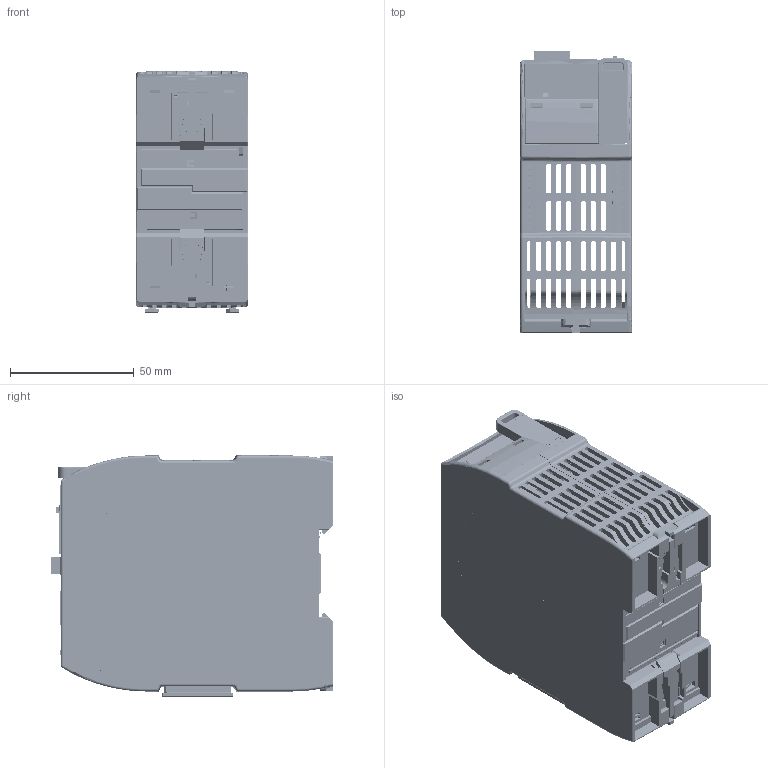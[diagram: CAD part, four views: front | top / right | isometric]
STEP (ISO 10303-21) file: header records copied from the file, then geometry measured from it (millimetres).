
FILE_DESCRIPTION((''),'2;1');
FILE_NAME('2037940','2025-07-10T08:18:05',('s.mayer'),(''),'CREO PARAMETRIC BY PTC INC, 2019292','CREO PARAMETRIC BY PTC INC, 2019292','');
FILE_SCHEMA(('AUTOMOTIVE_DESIGN { 1 0 10303 214 1 1 1 1 }'));
Products named in the file (1): 2037940
Bounding box: 45 x 114.15 x 98.05 mm (x, y, z)
Volume: 108387.7 mm3; surface area: 144615.3 mm2
Topology: 3 solids, 60 shells, 12489 faces, 35147 edges, 22661 vertices
Faces by surface type: plane 8720, cylinder 2709, extrusion 291, cone 225, sphere 204, torus 200, bspline 140
Entity records: 593784 total; most frequent: CARTESIAN_POINT 91231, ORIENTED_EDGE 69786, DIRECTION 59545, PRESENTATION_STYLE_ASSIGNMENT 46580, STYLED_ITEM 35242, CURVE_STYLE 35219, EDGE_CURVE 34933, VECTOR 26959
